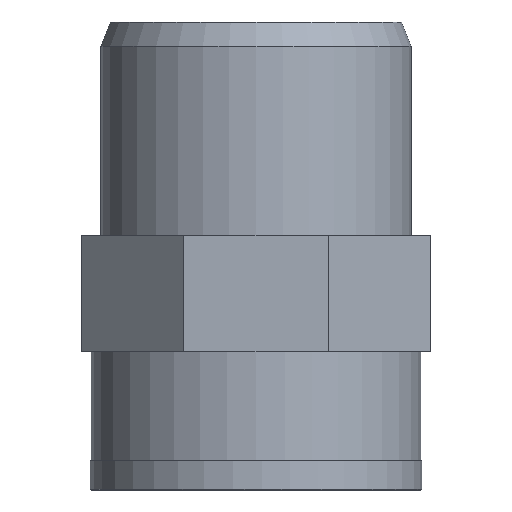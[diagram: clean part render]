
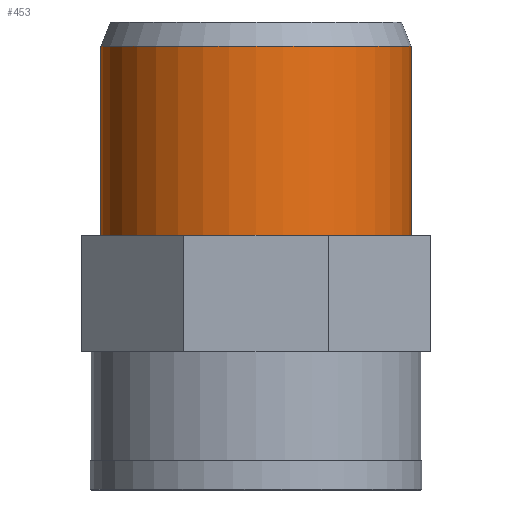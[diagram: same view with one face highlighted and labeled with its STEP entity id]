
A CAD part, front view. The second image highlights one B-rep face of the part: STEP entity #453.
In plain terms, the highlighted cylindrical face has radius 16 mm (diameter 32 mm), a full revolution.
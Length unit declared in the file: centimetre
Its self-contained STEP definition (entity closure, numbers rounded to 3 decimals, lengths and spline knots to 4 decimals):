
#105=FACE_BOUND('',#159,.T.);
#126=FACE_OUTER_BOUND('',#158,.T.);
#158=EDGE_LOOP('',(#337));
#159=EDGE_LOOP('',(#338));
#196=CIRCLE('',#485,1.6);
#198=CIRCLE('',#488,1.6);
#220=VERTEX_POINT('',#4312);
#222=VERTEX_POINT('',#4317);
#266=EDGE_CURVE('',#220,#220,#196,.T.);
#268=EDGE_CURVE('',#222,#222,#198,.T.);
#337=ORIENTED_EDGE('',*,*,#268,.T.);
#338=ORIENTED_EDGE('',*,*,#266,.F.);
#409=CYLINDRICAL_SURFACE('',#487,1.6);
#453=ADVANCED_FACE('',(#126,#105),#409,.T.);
#485=AXIS2_PLACEMENT_3D('',#4313,#540,#541);
#487=AXIS2_PLACEMENT_3D('',#4316,#544,#545);
#488=AXIS2_PLACEMENT_3D('',#4318,#546,#547);
#540=DIRECTION('center_axis',(0.,0.,1.));
#541=DIRECTION('ref_axis',(-1.,0.,0.));
#544=DIRECTION('center_axis',(0.,0.,1.));
#545=DIRECTION('ref_axis',(1.,0.,0.));
#546=DIRECTION('center_axis',(0.,0.,1.));
#547=DIRECTION('ref_axis',(1.,0.,0.));
#4312=CARTESIAN_POINT('',(1.198,-0.003,2.5733));
#4313=CARTESIAN_POINT('Origin',(-0.402,-0.003,
2.5733));
#4316=CARTESIAN_POINT('Origin',(-0.402,-0.003,
1.7233));
#4317=CARTESIAN_POINT('',(1.198,-0.003,0.6233));
#4318=CARTESIAN_POINT('Origin',(-0.402,-0.003,
0.6233));
